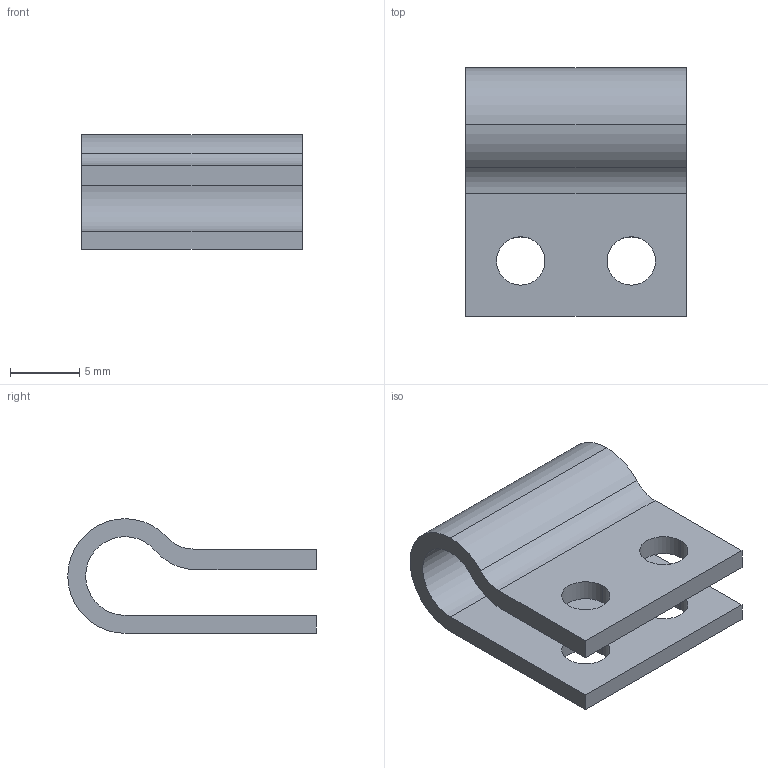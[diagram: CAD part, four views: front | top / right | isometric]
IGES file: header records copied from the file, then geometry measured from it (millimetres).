
Start section: SolidWorks IGES FILE using analytic representation for surfaces
Global section: file name: \\Intra-srv04\開発データ\CAD_Data\CAD委員会\3D電子ｶﾀﾛｸﾞ\製品カタログ（新）\0_IGES\MS-SS5.IGS,41HSolidWorks 2004; native system: by SolidWorks Corporation; preprocessor: Version 5.3; author: YK0651; date: 051107.142428; units: millimetre
Bounding box: 16 x 18 x 8.3 mm (x, y, z)
Volume: 797.1 mm3; surface area: 1395.4 mm2
Topology: 1 solids, 1 shells, 21 faces, 57 edges, 38 vertices
Faces by surface type: revolution 13, plane 8
